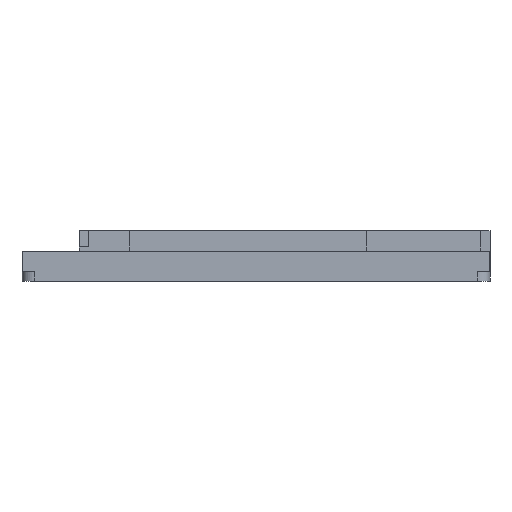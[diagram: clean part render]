
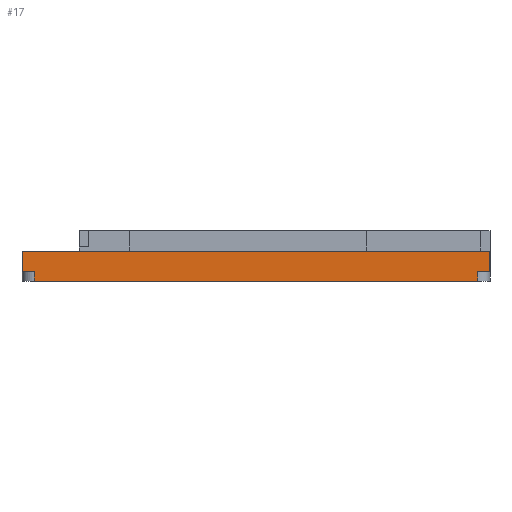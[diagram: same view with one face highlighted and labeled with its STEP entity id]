
A CAD part, left-side view. The second image highlights one B-rep face of the part: STEP entity #17.
In plain terms, the highlighted planar face has unit normal (-1, 0, 0).
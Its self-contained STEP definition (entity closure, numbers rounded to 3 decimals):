
#17 = ADVANCED_FACE('',(#18),#32,.F.);
#18 = FACE_BOUND('',#19,.F.);
#19 = EDGE_LOOP('',(#20,#55,#83,#111,#139,#167,#195,#223));
#20 = ORIENTED_EDGE('',*,*,#21,.F.);
#21 = EDGE_CURVE('',#22,#24,#26,.T.);
#22 = VERTEX_POINT('',#23);
#23 = CARTESIAN_POINT('',(-2.2,0.8,34.5));
#24 = VERTEX_POINT('',#25);
#25 = CARTESIAN_POINT('',(-2.2,0.8,36.9));
#26 = SURFACE_CURVE('',#27,(#31,#43),.PCURVE_S1.);
#27 = LINE('',#28,#29);
#28 = CARTESIAN_POINT('',(-2.2,0.8,34.5));
#29 = VECTOR('',#30,1.);
#30 = DIRECTION('',(0.,0.,1.));
#31 = PCURVE('',#32,#37);
#32 = PLANE('',#33);
#33 = AXIS2_PLACEMENT_3D('',#34,#35,#36);
#34 = CARTESIAN_POINT('',(-2.2,-2.2,34.5));
#35 = DIRECTION('',(1.,0.,0.));
#36 = DIRECTION('',(0.,0.,1.));
#37 = DEFINITIONAL_REPRESENTATION('',(#38),#42);
#38 = LINE('',#39,#40);
#39 = CARTESIAN_POINT('',(0.,-3.));
#40 = VECTOR('',#41,1.);
#41 = DIRECTION('',(1.,0.));
#42 = ( GEOMETRIC_REPRESENTATION_CONTEXT(2) 
PARAMETRIC_REPRESENTATION_CONTEXT() REPRESENTATION_CONTEXT('2D SPACE',''
  ) );
#43 = PCURVE('',#44,#49);
#44 = CYLINDRICAL_SURFACE('',#45,3.);
#45 = AXIS2_PLACEMENT_3D('',#46,#47,#48);
#46 = CARTESIAN_POINT('',(0.8,0.8,34.5));
#47 = DIRECTION('',(0.,0.,1.));
#48 = DIRECTION('',(-1.,-0.,0.));
#49 = DEFINITIONAL_REPRESENTATION('',(#50),#54);
#50 = LINE('',#51,#52);
#51 = CARTESIAN_POINT('',(0.,0.));
#52 = VECTOR('',#53,1.);
#53 = DIRECTION('',(0.,1.));
#54 = ( GEOMETRIC_REPRESENTATION_CONTEXT(2) 
PARAMETRIC_REPRESENTATION_CONTEXT() REPRESENTATION_CONTEXT('2D SPACE',''
  ) );
#55 = ORIENTED_EDGE('',*,*,#56,.T.);
#56 = EDGE_CURVE('',#22,#57,#59,.T.);
#57 = VERTEX_POINT('',#58);
#58 = CARTESIAN_POINT('',(-2.2,109.2,34.5));
#59 = SURFACE_CURVE('',#60,(#64,#71),.PCURVE_S1.);
#60 = LINE('',#61,#62);
#61 = CARTESIAN_POINT('',(-2.2,-2.2,34.5));
#62 = VECTOR('',#63,1.);
#63 = DIRECTION('',(0.,1.,0.));
#64 = PCURVE('',#32,#65);
#65 = DEFINITIONAL_REPRESENTATION('',(#66),#70);
#66 = LINE('',#67,#68);
#67 = CARTESIAN_POINT('',(0.,0.));
#68 = VECTOR('',#69,1.);
#69 = DIRECTION('',(0.,-1.));
#70 = ( GEOMETRIC_REPRESENTATION_CONTEXT(2) 
PARAMETRIC_REPRESENTATION_CONTEXT() REPRESENTATION_CONTEXT('2D SPACE',''
  ) );
#71 = PCURVE('',#72,#77);
#72 = PLANE('',#73);
#73 = AXIS2_PLACEMENT_3D('',#74,#75,#76);
#74 = CARTESIAN_POINT('',(-2.2,-2.2,34.5));
#75 = DIRECTION('',(0.,0.,1.));
#76 = DIRECTION('',(1.,0.,0.));
#77 = DEFINITIONAL_REPRESENTATION('',(#78),#82);
#78 = LINE('',#79,#80);
#79 = CARTESIAN_POINT('',(0.,0.));
#80 = VECTOR('',#81,1.);
#81 = DIRECTION('',(0.,1.));
#82 = ( GEOMETRIC_REPRESENTATION_CONTEXT(2) 
PARAMETRIC_REPRESENTATION_CONTEXT() REPRESENTATION_CONTEXT('2D SPACE',''
  ) );
#83 = ORIENTED_EDGE('',*,*,#84,.T.);
#84 = EDGE_CURVE('',#57,#85,#87,.T.);
#85 = VERTEX_POINT('',#86);
#86 = CARTESIAN_POINT('',(-2.2,109.2,36.9));
#87 = SURFACE_CURVE('',#88,(#92,#99),.PCURVE_S1.);
#88 = LINE('',#89,#90);
#89 = CARTESIAN_POINT('',(-2.2,109.2,34.5));
#90 = VECTOR('',#91,1.);
#91 = DIRECTION('',(0.,0.,1.));
#92 = PCURVE('',#32,#93);
#93 = DEFINITIONAL_REPRESENTATION('',(#94),#98);
#94 = LINE('',#95,#96);
#95 = CARTESIAN_POINT('',(0.,-111.4));
#96 = VECTOR('',#97,1.);
#97 = DIRECTION('',(1.,0.));
#98 = ( GEOMETRIC_REPRESENTATION_CONTEXT(2) 
PARAMETRIC_REPRESENTATION_CONTEXT() REPRESENTATION_CONTEXT('2D SPACE',''
  ) );
#99 = PCURVE('',#100,#105);
#100 = CYLINDRICAL_SURFACE('',#101,3.);
#101 = AXIS2_PLACEMENT_3D('',#102,#103,#104);
#102 = CARTESIAN_POINT('',(0.8,109.2,34.5));
#103 = DIRECTION('',(0.,0.,1.));
#104 = DIRECTION('',(-1.,-0.,0.));
#105 = DEFINITIONAL_REPRESENTATION('',(#106),#110);
#106 = LINE('',#107,#108);
#107 = CARTESIAN_POINT('',(-0.,0.));
#108 = VECTOR('',#109,1.);
#109 = DIRECTION('',(-0.,1.));
#110 = ( GEOMETRIC_REPRESENTATION_CONTEXT(2) 
PARAMETRIC_REPRESENTATION_CONTEXT() REPRESENTATION_CONTEXT('2D SPACE',''
  ) );
#111 = ORIENTED_EDGE('',*,*,#112,.F.);
#112 = EDGE_CURVE('',#113,#85,#115,.T.);
#113 = VERTEX_POINT('',#114);
#114 = CARTESIAN_POINT('',(-2.2,112.2,36.9));
#115 = SURFACE_CURVE('',#116,(#120,#127),.PCURVE_S1.);
#116 = LINE('',#117,#118);
#117 = CARTESIAN_POINT('',(-2.2,112.2,36.9));
#118 = VECTOR('',#119,1.);
#119 = DIRECTION('',(0.,-1.,0.));
#120 = PCURVE('',#32,#121);
#121 = DEFINITIONAL_REPRESENTATION('',(#122),#126);
#122 = LINE('',#123,#124);
#123 = CARTESIAN_POINT('',(2.4,-114.4));
#124 = VECTOR('',#125,1.);
#125 = DIRECTION('',(0.,1.));
#126 = ( GEOMETRIC_REPRESENTATION_CONTEXT(2) 
PARAMETRIC_REPRESENTATION_CONTEXT() REPRESENTATION_CONTEXT('2D SPACE',''
  ) );
#127 = PCURVE('',#128,#133);
#128 = PLANE('',#129);
#129 = AXIS2_PLACEMENT_3D('',#130,#131,#132);
#130 = CARTESIAN_POINT('',(-2.2,-2.2,36.9));
#131 = DIRECTION('',(0.,0.,1.));
#132 = DIRECTION('',(1.,0.,0.));
#133 = DEFINITIONAL_REPRESENTATION('',(#134),#138);
#134 = LINE('',#135,#136);
#135 = CARTESIAN_POINT('',(0.,114.4));
#136 = VECTOR('',#137,1.);
#137 = DIRECTION('',(0.,-1.));
#138 = ( GEOMETRIC_REPRESENTATION_CONTEXT(2) 
PARAMETRIC_REPRESENTATION_CONTEXT() REPRESENTATION_CONTEXT('2D SPACE',''
  ) );
#139 = ORIENTED_EDGE('',*,*,#140,.T.);
#140 = EDGE_CURVE('',#113,#141,#143,.T.);
#141 = VERTEX_POINT('',#142);
#142 = CARTESIAN_POINT('',(-2.2,112.2,41.9));
#143 = SURFACE_CURVE('',#144,(#148,#155),.PCURVE_S1.);
#144 = LINE('',#145,#146);
#145 = CARTESIAN_POINT('',(-2.2,112.2,36.9));
#146 = VECTOR('',#147,1.);
#147 = DIRECTION('',(0.,0.,1.));
#148 = PCURVE('',#32,#149);
#149 = DEFINITIONAL_REPRESENTATION('',(#150),#154);
#150 = LINE('',#151,#152);
#151 = CARTESIAN_POINT('',(2.4,-114.4));
#152 = VECTOR('',#153,1.);
#153 = DIRECTION('',(1.,0.));
#154 = ( GEOMETRIC_REPRESENTATION_CONTEXT(2) 
PARAMETRIC_REPRESENTATION_CONTEXT() REPRESENTATION_CONTEXT('2D SPACE',''
  ) );
#155 = PCURVE('',#156,#161);
#156 = PLANE('',#157);
#157 = AXIS2_PLACEMENT_3D('',#158,#159,#160);
#158 = CARTESIAN_POINT('',(-2.2,112.2,36.9));
#159 = DIRECTION('',(0.,1.,0.));
#160 = DIRECTION('',(0.,0.,1.));
#161 = DEFINITIONAL_REPRESENTATION('',(#162),#166);
#162 = LINE('',#163,#164);
#163 = CARTESIAN_POINT('',(0.,0.));
#164 = VECTOR('',#165,1.);
#165 = DIRECTION('',(1.,0.));
#166 = ( GEOMETRIC_REPRESENTATION_CONTEXT(2) 
PARAMETRIC_REPRESENTATION_CONTEXT() REPRESENTATION_CONTEXT('2D SPACE',''
  ) );
#167 = ORIENTED_EDGE('',*,*,#168,.F.);
#168 = EDGE_CURVE('',#169,#141,#171,.T.);
#169 = VERTEX_POINT('',#170);
#170 = CARTESIAN_POINT('',(-2.2,-2.2,41.9));
#171 = SURFACE_CURVE('',#172,(#176,#183),.PCURVE_S1.);
#172 = LINE('',#173,#174);
#173 = CARTESIAN_POINT('',(-2.2,-2.2,41.9));
#174 = VECTOR('',#175,1.);
#175 = DIRECTION('',(0.,1.,0.));
#176 = PCURVE('',#32,#177);
#177 = DEFINITIONAL_REPRESENTATION('',(#178),#182);
#178 = LINE('',#179,#180);
#179 = CARTESIAN_POINT('',(7.4,0.));
#180 = VECTOR('',#181,1.);
#181 = DIRECTION('',(0.,-1.));
#182 = ( GEOMETRIC_REPRESENTATION_CONTEXT(2) 
PARAMETRIC_REPRESENTATION_CONTEXT() REPRESENTATION_CONTEXT('2D SPACE',''
  ) );
#183 = PCURVE('',#184,#189);
#184 = PLANE('',#185);
#185 = AXIS2_PLACEMENT_3D('',#186,#187,#188);
#186 = CARTESIAN_POINT('',(-2.2,-2.2,41.9));
#187 = DIRECTION('',(0.,0.,1.));
#188 = DIRECTION('',(1.,0.,0.));
#189 = DEFINITIONAL_REPRESENTATION('',(#190),#194);
#190 = LINE('',#191,#192);
#191 = CARTESIAN_POINT('',(0.,0.));
#192 = VECTOR('',#193,1.);
#193 = DIRECTION('',(0.,1.));
#194 = ( GEOMETRIC_REPRESENTATION_CONTEXT(2) 
PARAMETRIC_REPRESENTATION_CONTEXT() REPRESENTATION_CONTEXT('2D SPACE',''
  ) );
#195 = ORIENTED_EDGE('',*,*,#196,.F.);
#196 = EDGE_CURVE('',#197,#169,#199,.T.);
#197 = VERTEX_POINT('',#198);
#198 = CARTESIAN_POINT('',(-2.2,-2.2,36.9));
#199 = SURFACE_CURVE('',#200,(#204,#211),.PCURVE_S1.);
#200 = LINE('',#201,#202);
#201 = CARTESIAN_POINT('',(-2.2,-2.2,36.9));
#202 = VECTOR('',#203,1.);
#203 = DIRECTION('',(0.,0.,1.));
#204 = PCURVE('',#32,#205);
#205 = DEFINITIONAL_REPRESENTATION('',(#206),#210);
#206 = LINE('',#207,#208);
#207 = CARTESIAN_POINT('',(2.4,0.));
#208 = VECTOR('',#209,1.);
#209 = DIRECTION('',(1.,0.));
#210 = ( GEOMETRIC_REPRESENTATION_CONTEXT(2) 
PARAMETRIC_REPRESENTATION_CONTEXT() REPRESENTATION_CONTEXT('2D SPACE',''
  ) );
#211 = PCURVE('',#212,#217);
#212 = PLANE('',#213);
#213 = AXIS2_PLACEMENT_3D('',#214,#215,#216);
#214 = CARTESIAN_POINT('',(-2.2,-2.2,34.5));
#215 = DIRECTION('',(0.,1.,0.));
#216 = DIRECTION('',(0.,0.,1.));
#217 = DEFINITIONAL_REPRESENTATION('',(#218),#222);
#218 = LINE('',#219,#220);
#219 = CARTESIAN_POINT('',(2.4,0.));
#220 = VECTOR('',#221,1.);
#221 = DIRECTION('',(1.,0.));
#222 = ( GEOMETRIC_REPRESENTATION_CONTEXT(2) 
PARAMETRIC_REPRESENTATION_CONTEXT() REPRESENTATION_CONTEXT('2D SPACE',''
  ) );
#223 = ORIENTED_EDGE('',*,*,#224,.F.);
#224 = EDGE_CURVE('',#24,#197,#225,.T.);
#225 = SURFACE_CURVE('',#226,(#230,#237),.PCURVE_S1.);
#226 = LINE('',#227,#228);
#227 = CARTESIAN_POINT('',(-2.2,0.8,36.9));
#228 = VECTOR('',#229,1.);
#229 = DIRECTION('',(0.,-1.,0.));
#230 = PCURVE('',#32,#231);
#231 = DEFINITIONAL_REPRESENTATION('',(#232),#236);
#232 = LINE('',#233,#234);
#233 = CARTESIAN_POINT('',(2.4,-3.));
#234 = VECTOR('',#235,1.);
#235 = DIRECTION('',(0.,1.));
#236 = ( GEOMETRIC_REPRESENTATION_CONTEXT(2) 
PARAMETRIC_REPRESENTATION_CONTEXT() REPRESENTATION_CONTEXT('2D SPACE',''
  ) );
#237 = PCURVE('',#238,#243);
#238 = PLANE('',#239);
#239 = AXIS2_PLACEMENT_3D('',#240,#241,#242);
#240 = CARTESIAN_POINT('',(-2.2,-2.2,36.9));
#241 = DIRECTION('',(0.,0.,1.));
#242 = DIRECTION('',(1.,0.,0.));
#243 = DEFINITIONAL_REPRESENTATION('',(#244),#248);
#244 = LINE('',#245,#246);
#245 = CARTESIAN_POINT('',(0.,3.));
#246 = VECTOR('',#247,1.);
#247 = DIRECTION('',(0.,-1.));
#248 = ( GEOMETRIC_REPRESENTATION_CONTEXT(2) 
PARAMETRIC_REPRESENTATION_CONTEXT() REPRESENTATION_CONTEXT('2D SPACE',''
  ) );
